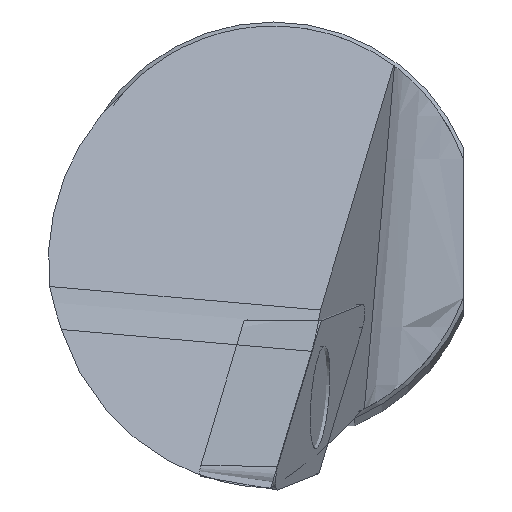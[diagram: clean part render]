
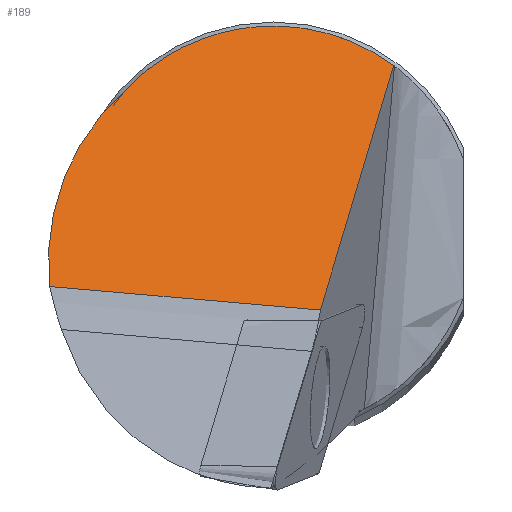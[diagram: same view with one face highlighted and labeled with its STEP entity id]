
A CAD part, top view. The second image highlights one B-rep face of the part: STEP entity #189.
In plain terms, the highlighted planar face has unit normal (-0.044, 0.773, 0.633).
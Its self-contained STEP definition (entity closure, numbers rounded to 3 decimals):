
#117=ELLIPSE('',#661,21.953,13.741);
#118=ELLIPSE('',#666,19.349,12.25);
#189=ADVANCED_FACE('',(#232),#205,.T.);
#205=PLANE('',#675);
#232=FACE_OUTER_BOUND('',#266,.T.);
#266=EDGE_LOOP('',(#386,#387,#388,#389));
#386=ORIENTED_EDGE('',*,*,#529,.T.);
#387=ORIENTED_EDGE('',*,*,#552,.F.);
#388=ORIENTED_EDGE('',*,*,#504,.T.);
#389=ORIENTED_EDGE('',*,*,#537,.T.);
#447=VERTEX_POINT('',#890);
#448=VERTEX_POINT('',#892);
#467=VERTEX_POINT('',#969);
#468=VERTEX_POINT('',#971);
#504=EDGE_CURVE('',#448,#447,#572,.T.);
#529=EDGE_CURVE('',#468,#467,#117,.T.);
#537=EDGE_CURVE('',#447,#468,#118,.T.);
#552=EDGE_CURVE('',#448,#467,#586,.T.);
#572=LINE('',#891,#606);
#586=LINE('',#1046,#620);
#606=VECTOR('',#737,1.);
#620=VECTOR('',#816,1.);
#661=AXIS2_PLACEMENT_3D('',#970,#778,#779);
#666=AXIS2_PLACEMENT_3D('',#990,#791,#792);
#675=AXIS2_PLACEMENT_3D('',#1047,#817,#818);
#737=DIRECTION('',(0.188,0.629,-0.754));
#778=DIRECTION('',(-0.044,0.773,0.633));
#779=DIRECTION('',(0.036,-0.632,0.774));
#791=DIRECTION('',(-0.044,0.773,0.633));
#792=DIRECTION('',(0.036,-0.632,0.774));
#816=DIRECTION('',(-0.981,0.086,-0.173));
#817=DIRECTION('',(-0.044,0.773,0.633));
#818=DIRECTION('',(0.,-0.634,0.774));
#890=CARTESIAN_POINT('',(7.285,9.849,-28.741));
#891=CARTESIAN_POINT('',(8.145,12.726,-32.194));
#892=CARTESIAN_POINT('',(2.847,-4.992,-10.935));
#969=CARTESIAN_POINT('',(-13.543,-3.558,-13.824));
#970=CARTESIAN_POINT('',(0.119,-2.083,-14.675));
#971=CARTESIAN_POINT('',(-8.918,8.399,-28.098));
#990=CARTESIAN_POINT('',(0.,0.,-17.226));
#1046=CARTESIAN_POINT('',(12.658,-5.85,-9.204));
#1047=CARTESIAN_POINT('',(12.658,-5.85,-9.204));
